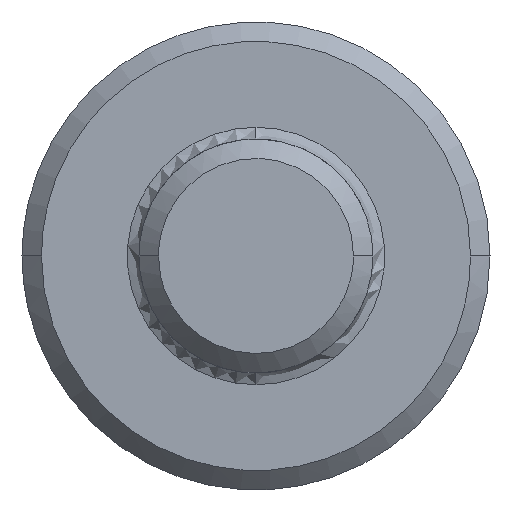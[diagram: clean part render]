
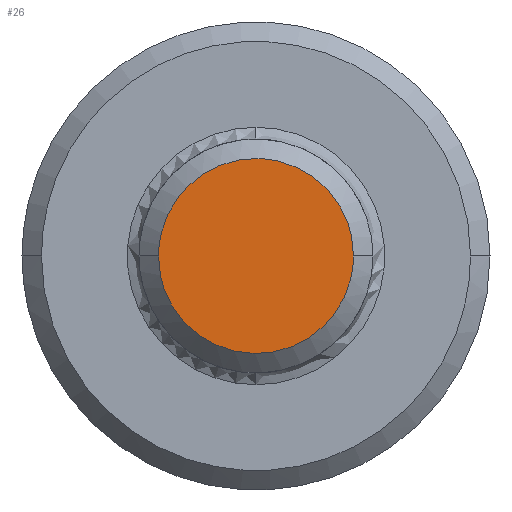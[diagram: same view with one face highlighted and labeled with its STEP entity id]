
A CAD part, left-side view. The second image highlights one B-rep face of the part: STEP entity #26.
In plain terms, the highlighted planar face has unit normal (-1, 0, 0).
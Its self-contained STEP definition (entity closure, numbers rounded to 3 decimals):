
#26=ADVANCED_FACE('',(#48),#646,.T.);
#48=FACE_OUTER_BOUND('',#70,.T.);
#70=EDGE_LOOP('',(#94,#95));
#94=ORIENTED_EDGE('',*,*,#510,.T.);
#95=ORIENTED_EDGE('',*,*,#511,.T.);
#188=B_SPLINE_CURVE_WITH_KNOTS('',1,(#1316,#1317),.UNSPECIFIED.,.F.,.F.,
(2,2),(-4.142,-1.),.UNSPECIFIED.);
#279=B_SPLINE_CURVE_WITH_KNOTS('',1,(#1674,#1675),.UNSPECIFIED.,.F.,.F.,
(2,2),(-8.283,-5.142),.UNSPECIFIED.);
#280=PCURVE('',#646,#372);
#281=PCURVE('',#646,#373);
#283=PCURVE('',#628,#375);
#371=PCURVE('',#645,#463);
#372=DEFINITIONAL_REPRESENTATION('',(#557),#1677);
#373=DEFINITIONAL_REPRESENTATION('',(#559),#1677);
#375=DEFINITIONAL_REPRESENTATION('',(#188),#1677);
#463=DEFINITIONAL_REPRESENTATION('',(#279),#1677);
#464=SURFACE_CURVE('',#556,(#280,#371),.PCURVE_S1.);
#465=SURFACE_CURVE('',#558,(#281,#283),.PCURVE_S1.);
#510=EDGE_CURVE('',#600,#603,#464,.T.);
#511=EDGE_CURVE('',#603,#600,#465,.T.);
#556=(
BOUNDED_CURVE()
B_SPLINE_CURVE(2,(#1292,#1293,#1294,#1295,#1296),.UNSPECIFIED.,.F.,.F.)
B_SPLINE_CURVE_WITH_KNOTS((3,2,3),(-8.283,-6.712,-5.142),
 .UNSPECIFIED.)
CURVE()
GEOMETRIC_REPRESENTATION_ITEM()
RATIONAL_B_SPLINE_CURVE((1.,0.707,1.,0.707,1.))
REPRESENTATION_ITEM('')
);
#557=(
BOUNDED_CURVE()
B_SPLINE_CURVE(2,(#1297,#1298,#1299,#1300,#1301),.UNSPECIFIED.,.F.,.F.)
B_SPLINE_CURVE_WITH_KNOTS((3,2,3),(-8.283,-6.712,-5.142),
 .UNSPECIFIED.)
CURVE()
GEOMETRIC_REPRESENTATION_ITEM()
RATIONAL_B_SPLINE_CURVE((1.,0.707,1.,0.707,1.))
REPRESENTATION_ITEM('')
);
#558=(
BOUNDED_CURVE()
B_SPLINE_CURVE(2,(#1302,#1303,#1304,#1305,#1306),.UNSPECIFIED.,.F.,.F.)
B_SPLINE_CURVE_WITH_KNOTS((3,2,3),(-4.142,-2.571,-1.),
 .UNSPECIFIED.)
CURVE()
GEOMETRIC_REPRESENTATION_ITEM()
RATIONAL_B_SPLINE_CURVE((1.,0.707,1.,0.707,1.))
REPRESENTATION_ITEM('')
);
#559=(
BOUNDED_CURVE()
B_SPLINE_CURVE(2,(#1307,#1308,#1309,#1310,#1311),.UNSPECIFIED.,.F.,.F.)
B_SPLINE_CURVE_WITH_KNOTS((3,2,3),(-4.142,-2.571,-1.),
 .UNSPECIFIED.)
CURVE()
GEOMETRIC_REPRESENTATION_ITEM()
RATIONAL_B_SPLINE_CURVE((1.,0.707,1.,0.707,1.))
REPRESENTATION_ITEM('')
);
#600=VERTEX_POINT('',#1264);
#603=VERTEX_POINT('',#1267);
#628=(
BOUNDED_SURFACE()
B_SPLINE_SURFACE(1,2,((#685,#686,#687,#688,#689,#690,#691,#692,#693),(#694,
#695,#696,#697,#698,#699,#700,#701,#702)),.UNSPECIFIED.,.F.,.F.,.F.)
B_SPLINE_SURFACE_WITH_KNOTS((2,2),(3,2,2,2,3),(0.,1.),(0.,1.571,
3.142,4.712,6.283),.UNSPECIFIED.)
GEOMETRIC_REPRESENTATION_ITEM()
RATIONAL_B_SPLINE_SURFACE(((1.,0.707,1.,0.707,1.,
0.707,1.,0.707,1.),(1.,0.707,1.,0.707,
1.,0.707,1.,0.707,1.)))
REPRESENTATION_ITEM('')
SURFACE()
);
#645=(
BOUNDED_SURFACE()
B_SPLINE_SURFACE(1,2,((#1246,#1247,#1248,#1249,#1250,#1251,#1252,#1253,#1254),
(#1255,#1256,#1257,#1258,#1259,#1260,#1261,#1262,#1263)),.UNSPECIFIED.,.F.,
 .F.,.F.)
B_SPLINE_SURFACE_WITH_KNOTS((2,2),(3,2,2,2,3),(0.,1.),(0.,1.571,
3.142,4.712,6.283),.UNSPECIFIED.)
GEOMETRIC_REPRESENTATION_ITEM()
RATIONAL_B_SPLINE_SURFACE(((1.,0.707,1.,0.707,1.,
0.707,1.,0.707,1.),(1.,0.707,1.,0.707,
1.,0.707,1.,0.707,1.)))
REPRESENTATION_ITEM('')
SURFACE()
);
#646=PLANE('',#670);
#670=AXIS2_PLACEMENT_3D('',#684,#677,$);
#677=DIRECTION('',(-1.,0.,0.));
#684=CARTESIAN_POINT('',(-684.,282.5,32.5));
#685=CARTESIAN_POINT('',(-686.5,285.,30.));
#686=CARTESIAN_POINT('',(-686.5,285.,30.));
#687=CARTESIAN_POINT('',(-686.5,285.,30.));
#688=CARTESIAN_POINT('',(-686.5,285.,30.));
#689=CARTESIAN_POINT('',(-686.5,285.,30.));
#690=CARTESIAN_POINT('',(-686.5,285.,30.));
#691=CARTESIAN_POINT('',(-686.5,285.,30.));
#692=CARTESIAN_POINT('',(-686.5,285.,30.));
#693=CARTESIAN_POINT('',(-686.5,285.,30.));
#694=CARTESIAN_POINT('',(-682.257,289.243,30.));
#695=CARTESIAN_POINT('',(-682.257,289.243,25.757));
#696=CARTESIAN_POINT('',(-682.257,285.,25.757));
#697=CARTESIAN_POINT('',(-682.257,280.757,25.757));
#698=CARTESIAN_POINT('',(-682.257,280.757,30.));
#699=CARTESIAN_POINT('',(-682.257,280.757,34.243));
#700=CARTESIAN_POINT('',(-682.257,285.,34.243));
#701=CARTESIAN_POINT('',(-682.257,289.243,34.243));
#702=CARTESIAN_POINT('',(-682.257,289.243,30.));
#1246=CARTESIAN_POINT('',(-686.5,285.,30.));
#1247=CARTESIAN_POINT('',(-686.5,285.,30.));
#1248=CARTESIAN_POINT('',(-686.5,285.,30.));
#1249=CARTESIAN_POINT('',(-686.5,285.,30.));
#1250=CARTESIAN_POINT('',(-686.5,285.,30.));
#1251=CARTESIAN_POINT('',(-686.5,285.,30.));
#1252=CARTESIAN_POINT('',(-686.5,285.,30.));
#1253=CARTESIAN_POINT('',(-686.5,285.,30.));
#1254=CARTESIAN_POINT('',(-686.5,285.,30.));
#1255=CARTESIAN_POINT('',(-682.257,289.243,30.));
#1256=CARTESIAN_POINT('',(-682.257,289.243,25.757));
#1257=CARTESIAN_POINT('',(-682.257,285.,25.757));
#1258=CARTESIAN_POINT('',(-682.257,280.757,25.757));
#1259=CARTESIAN_POINT('',(-682.257,280.757,30.));
#1260=CARTESIAN_POINT('',(-682.257,280.757,34.243));
#1261=CARTESIAN_POINT('',(-682.257,285.,34.243));
#1262=CARTESIAN_POINT('',(-682.257,289.243,34.243));
#1263=CARTESIAN_POINT('',(-682.257,289.243,30.));
#1264=CARTESIAN_POINT('',(-684.,287.5,30.));
#1267=CARTESIAN_POINT('',(-684.,282.5,30.));
#1292=CARTESIAN_POINT('',(-684.,287.5,30.));
#1293=CARTESIAN_POINT('',(-684.,287.5,27.5));
#1294=CARTESIAN_POINT('',(-684.,285.,27.5));
#1295=CARTESIAN_POINT('',(-684.,282.5,27.5));
#1296=CARTESIAN_POINT('',(-684.,282.5,30.));
#1297=CARTESIAN_POINT('',(1.,0.5));
#1298=CARTESIAN_POINT('',(1.,1.));
#1299=CARTESIAN_POINT('',(0.5,1.));
#1300=CARTESIAN_POINT('',(0.,1.));
#1301=CARTESIAN_POINT('',(0.,0.5));
#1302=CARTESIAN_POINT('',(-684.,282.5,30.));
#1303=CARTESIAN_POINT('',(-684.,282.5,32.5));
#1304=CARTESIAN_POINT('',(-684.,285.,32.5));
#1305=CARTESIAN_POINT('',(-684.,287.5,32.5));
#1306=CARTESIAN_POINT('',(-684.,287.5,30.));
#1307=CARTESIAN_POINT('',(0.,0.5));
#1308=CARTESIAN_POINT('',(0.,0.));
#1309=CARTESIAN_POINT('',(0.5,0.));
#1310=CARTESIAN_POINT('',(1.,0.));
#1311=CARTESIAN_POINT('',(1.,0.5));
#1316=CARTESIAN_POINT('',(0.589,3.142));
#1317=CARTESIAN_POINT('',(0.589,6.283));
#1674=CARTESIAN_POINT('',(0.589,0.));
#1675=CARTESIAN_POINT('',(0.589,3.142));
#1677=(
GEOMETRIC_REPRESENTATION_CONTEXT(2)
PARAMETRIC_REPRESENTATION_CONTEXT()
REPRESENTATION_CONTEXT('pspace','')
);
